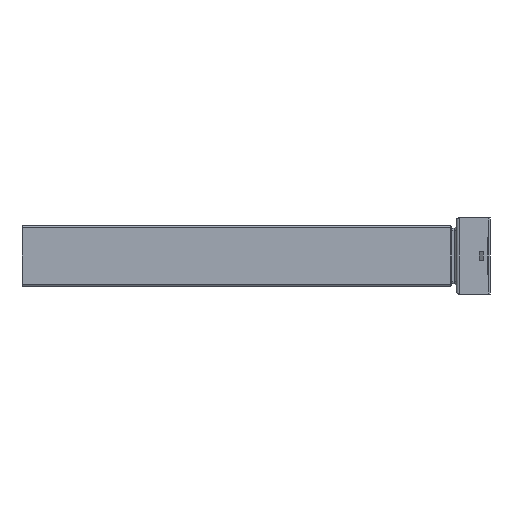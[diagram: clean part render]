
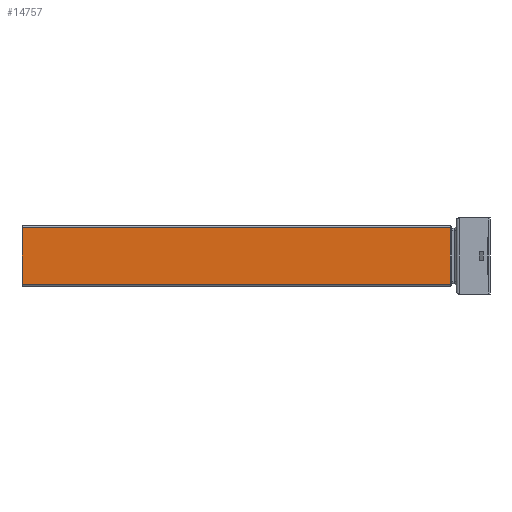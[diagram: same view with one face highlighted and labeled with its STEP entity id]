
A CAD part, left-side view. The second image highlights one B-rep face of the part: STEP entity #14757.
In plain terms, the highlighted planar face has unit normal (-1, 0, 0).
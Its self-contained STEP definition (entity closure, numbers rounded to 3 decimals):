
#774 = CARTESIAN_POINT ( 'NONE',  ( -26.5, 601.5, 39.25 ) ) ;
#872 = VECTOR ( 'NONE', #12480, 1000. ) ;
#1920 = DIRECTION ( 'NONE',  ( 0., 0., 1. ) ) ;
#1925 = ORIENTED_EDGE ( 'NONE', *, *, #8894, .T. ) ;
#2143 = DIRECTION ( 'NONE',  ( 0., 0., -1. ) ) ;
#2761 = LINE ( 'NONE', #5486, #5914 ) ;
#2775 = FACE_OUTER_BOUND ( 'NONE', #4664, .T. ) ;
#3252 = VERTEX_POINT ( 'NONE', #5616 ) ;
#4226 = EDGE_CURVE ( 'NONE', #13365, #9755, #9319, .T. ) ;
#4244 = CARTESIAN_POINT ( 'NONE',  ( -26.5, 601.5, 39.25 ) ) ;
#4248 = CARTESIAN_POINT ( 'NONE',  ( -26.5, 601.5, -41.5 ) ) ;
#4664 = EDGE_LOOP ( 'NONE', ( #5646, #11735, #1925, #11406 ) ) ;
#5486 = CARTESIAN_POINT ( 'NONE',  ( -26.5, 11., -41.5 ) ) ;
#5616 = CARTESIAN_POINT ( 'NONE',  ( -26.5, 11., 39.25 ) ) ;
#5645 = DIRECTION ( 'NONE',  ( 1., 0., 0. ) ) ;
#5646 = ORIENTED_EDGE ( 'NONE', *, *, #4226, .T. ) ;
#5914 = VECTOR ( 'NONE', #1920, 1000. ) ;
#7140 = LINE ( 'NONE', #4244, #872 ) ;
#7764 = DIRECTION ( 'NONE',  ( 0., 0., 1. ) ) ;
#8133 = CARTESIAN_POINT ( 'NONE',  ( -26.5, 601.5, -39.25 ) ) ;
#8894 = EDGE_CURVE ( 'NONE', #3252, #10109, #7140, .T. ) ;
#9220 = PLANE ( 'NONE',  #9655 ) ;
#9319 = LINE ( 'NONE', #8133, #12398 ) ;
#9655 = AXIS2_PLACEMENT_3D ( 'NONE', #15068, #5645, #2143 ) ;
#9755 = VERTEX_POINT ( 'NONE', #13070 ) ;
#10109 = VERTEX_POINT ( 'NONE', #774 ) ;
#11144 = VECTOR ( 'NONE', #7764, 1000. ) ;
#11406 = ORIENTED_EDGE ( 'NONE', *, *, #13501, .F. ) ;
#11519 = LINE ( 'NONE', #4248, #11144 ) ;
#11735 = ORIENTED_EDGE ( 'NONE', *, *, #15146, .T. ) ;
#12398 = VECTOR ( 'NONE', #15166, 1000. ) ;
#12480 = DIRECTION ( 'NONE',  ( 0., 1., 0. ) ) ;
#13070 = CARTESIAN_POINT ( 'NONE',  ( -26.5, 11., -39.25 ) ) ;
#13365 = VERTEX_POINT ( 'NONE', #14566 ) ;
#13501 = EDGE_CURVE ( 'NONE', #13365, #10109, #11519, .T. ) ;
#14566 = CARTESIAN_POINT ( 'NONE',  ( -26.5, 601.5, -39.25 ) ) ;
#14757 = ADVANCED_FACE ( 'NONE', ( #2775 ), #9220, .F. ) ;
#15068 = CARTESIAN_POINT ( 'NONE',  ( -26.5, 601.5, -41.5 ) ) ;
#15146 = EDGE_CURVE ( 'NONE', #9755, #3252, #2761, .T. ) ;
#15166 = DIRECTION ( 'NONE',  ( 0., -1., 0. ) ) ;
